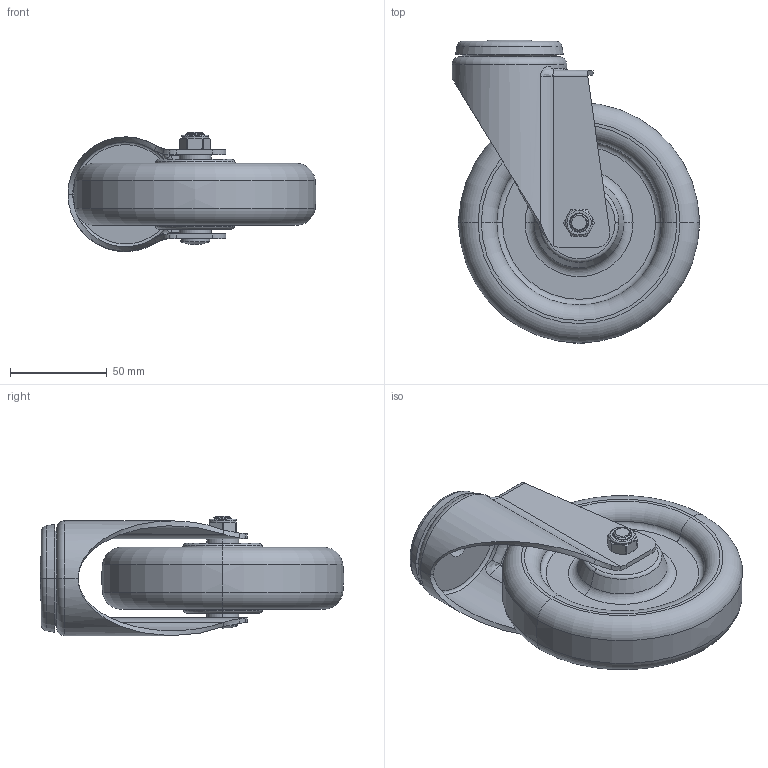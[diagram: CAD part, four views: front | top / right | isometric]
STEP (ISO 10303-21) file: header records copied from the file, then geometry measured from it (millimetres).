
FILE_DESCRIPTION((''),'2;1');
FILE_NAME('50175-505-86_ASM','2020-01-01T',('L'),(''),'PRO/ENGINEER BY PARAMETRIC TECHNOLOGY CORPORATION, 2010280','PRO/ENGINEER BY PARAMETRIC TECHNOLOGY CORPORATION, 2010280','');
FILE_SCHEMA(('CONFIG_CONTROL_DESIGN'));
Length unit declared in the file: millimetre
Products named in the file (5): 50175; 505-986; 570-33; 570-34; 50175-505-86_ASM
Assembly tree (4 placements, depth 2):
  50175-505-86_ASM
    50175
    505-986
    570-33
    570-34
Bounding box: 128.1 x 156.65 x 61.65 mm (x, y, z)
Volume: 346193.2 mm3; surface area: 73941.5 mm2
Topology: 4 solids, 4 shells, 212 faces, 487 edges, 293 vertices
Faces by surface type: cylinder 64, plane 45, torus 42, cone 32, bspline 27, sphere 2
Entity records: 10839 total; most frequent: CARTESIAN_POINT 6086, ORIENTED_EDGE 970, DIRECTION 967, EDGE_CURVE 485, AXIS2_PLACEMENT_3D 411, VERTEX_POINT 293, EDGE_LOOP 232, CIRCLE 217
